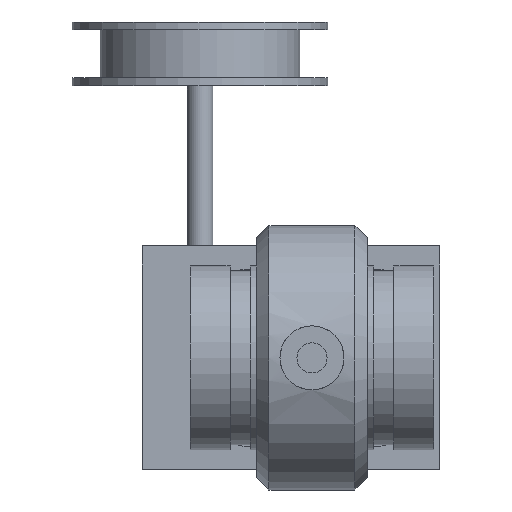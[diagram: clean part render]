
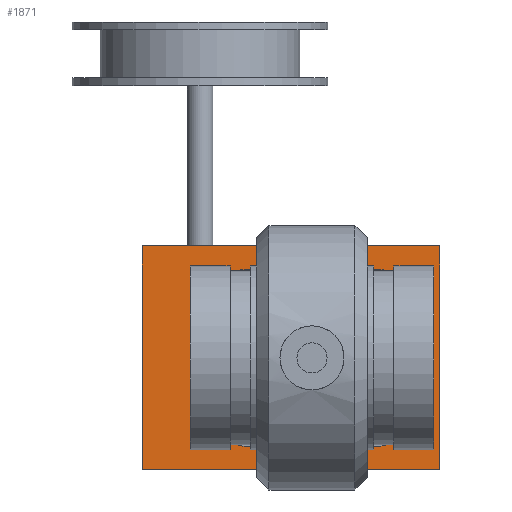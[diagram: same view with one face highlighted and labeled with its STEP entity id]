
A CAD part, front view. The second image highlights one B-rep face of the part: STEP entity #1871.
In plain terms, the highlighted planar face has unit normal (0, -1, 0).
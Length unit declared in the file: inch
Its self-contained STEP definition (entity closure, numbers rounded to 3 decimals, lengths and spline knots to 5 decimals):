
#38=FACE_BOUND('',#269,.T.);
#77=PLANE('',#2059);
#152=FACE_OUTER_BOUND('',#268,.T.);
#268=EDGE_LOOP('',(#1406,#1407,#1408,#1409));
#269=EDGE_LOOP('',(#1410,#1411,#1412,#1413,#1414,#1415,#1416,#1417));
#404=LINE('',#3024,#529);
#405=LINE('',#3026,#530);
#406=LINE('',#3028,#531);
#407=LINE('',#3029,#532);
#408=LINE('',#3034,#533);
#409=LINE('',#3038,#534);
#410=LINE('',#3042,#535);
#411=LINE('',#3045,#536);
#529=VECTOR('',#2467,0.3937);
#530=VECTOR('',#2468,0.3937);
#531=VECTOR('',#2469,0.3937);
#532=VECTOR('',#2470,0.3937);
#533=VECTOR('',#2473,0.3937);
#534=VECTOR('',#2476,0.3937);
#535=VECTOR('',#2479,0.3937);
#536=VECTOR('',#2482,0.3937);
#655=CIRCLE('',#2060,0.32);
#656=CIRCLE('',#2061,0.32);
#657=CIRCLE('',#2062,0.32);
#658=CIRCLE('',#2063,0.32);
#805=VERTEX_POINT('',#3022);
#806=VERTEX_POINT('',#3023);
#807=VERTEX_POINT('',#3025);
#808=VERTEX_POINT('',#3027);
#809=VERTEX_POINT('',#3030);
#810=VERTEX_POINT('',#3031);
#811=VERTEX_POINT('',#3033);
#812=VERTEX_POINT('',#3035);
#813=VERTEX_POINT('',#3037);
#814=VERTEX_POINT('',#3039);
#815=VERTEX_POINT('',#3041);
#816=VERTEX_POINT('',#3043);
#1024=EDGE_CURVE('',#805,#806,#404,.T.);
#1025=EDGE_CURVE('',#807,#805,#405,.T.);
#1026=EDGE_CURVE('',#808,#807,#406,.T.);
#1027=EDGE_CURVE('',#806,#808,#407,.T.);
#1028=EDGE_CURVE('',#809,#810,#655,.T.);
#1029=EDGE_CURVE('',#809,#811,#408,.T.);
#1030=EDGE_CURVE('',#812,#811,#656,.T.);
#1031=EDGE_CURVE('',#812,#813,#409,.T.);
#1032=EDGE_CURVE('',#814,#813,#657,.T.);
#1033=EDGE_CURVE('',#814,#815,#410,.T.);
#1034=EDGE_CURVE('',#816,#815,#658,.T.);
#1035=EDGE_CURVE('',#816,#810,#411,.T.);
#1406=ORIENTED_EDGE('',*,*,#1024,.F.);
#1407=ORIENTED_EDGE('',*,*,#1025,.F.);
#1408=ORIENTED_EDGE('',*,*,#1026,.F.);
#1409=ORIENTED_EDGE('',*,*,#1027,.F.);
#1410=ORIENTED_EDGE('',*,*,#1028,.F.);
#1411=ORIENTED_EDGE('',*,*,#1029,.T.);
#1412=ORIENTED_EDGE('',*,*,#1030,.F.);
#1413=ORIENTED_EDGE('',*,*,#1031,.T.);
#1414=ORIENTED_EDGE('',*,*,#1032,.F.);
#1415=ORIENTED_EDGE('',*,*,#1033,.T.);
#1416=ORIENTED_EDGE('',*,*,#1034,.F.);
#1417=ORIENTED_EDGE('',*,*,#1035,.T.);
#1871=ADVANCED_FACE('',(#152,#38),#77,.F.);
#2059=AXIS2_PLACEMENT_3D('',#3021,#2465,#2466);
#2060=AXIS2_PLACEMENT_3D('',#3032,#2471,#2472);
#2061=AXIS2_PLACEMENT_3D('',#3036,#2474,#2475);
#2062=AXIS2_PLACEMENT_3D('',#3040,#2477,#2478);
#2063=AXIS2_PLACEMENT_3D('',#3044,#2480,#2481);
#2465=DIRECTION('center_axis',(0.,1.,0.));
#2466=DIRECTION('ref_axis',(0.,0.,1.));
#2467=DIRECTION('',(0.,0.,-1.));
#2468=DIRECTION('',(1.,0.,0.));
#2469=DIRECTION('',(0.,0.,1.));
#2470=DIRECTION('',(-1.,0.,0.));
#2471=DIRECTION('center_axis',(0.,-1.,0.));
#2472=DIRECTION('ref_axis',(-0.707,0.,0.707));
#2473=DIRECTION('',(1.,0.,0.));
#2474=DIRECTION('center_axis',(0.,-1.,0.));
#2475=DIRECTION('ref_axis',(0.707,0.,0.707));
#2476=DIRECTION('',(0.,0.,-1.));
#2477=DIRECTION('center_axis',(0.,-1.,0.));
#2478=DIRECTION('ref_axis',(0.707,0.,-0.707));
#2479=DIRECTION('',(-1.,0.,0.));
#2480=DIRECTION('center_axis',(0.,-1.,0.));
#2481=DIRECTION('ref_axis',(-0.707,0.,-0.707));
#2482=DIRECTION('',(0.,0.,1.));
#3021=CARTESIAN_POINT('Origin',(-0.3275,4.25,0.));
#3022=CARTESIAN_POINT('',(2.,4.25,1.75));
#3023=CARTESIAN_POINT('',(2.,4.25,-1.75));
#3024=CARTESIAN_POINT('',(2.,4.25,1.75));
#3025=CARTESIAN_POINT('',(-2.655,4.25,1.75));
#3026=CARTESIAN_POINT('',(-2.655,4.25,1.75));
#3027=CARTESIAN_POINT('',(-2.655,4.25,-1.75));
#3028=CARTESIAN_POINT('',(-2.655,4.25,-1.75));
#3029=CARTESIAN_POINT('',(2.,4.25,-1.75));
#3030=CARTESIAN_POINT('',(-1.06,4.25,1.38));
#3031=CARTESIAN_POINT('',(-1.38,4.25,1.06));
#3032=CARTESIAN_POINT('Origin',(-1.06,4.25,1.06));
#3033=CARTESIAN_POINT('',(1.06,4.25,1.38));
#3034=CARTESIAN_POINT('',(-1.38,4.25,1.38));
#3035=CARTESIAN_POINT('',(1.38,4.25,1.06));
#3036=CARTESIAN_POINT('Origin',(1.06,4.25,1.06));
#3037=CARTESIAN_POINT('',(1.38,4.25,-1.06));
#3038=CARTESIAN_POINT('',(1.38,4.25,1.38));
#3039=CARTESIAN_POINT('',(1.06,4.25,-1.38));
#3040=CARTESIAN_POINT('Origin',(1.06,4.25,-1.06));
#3041=CARTESIAN_POINT('',(-1.06,4.25,-1.38));
#3042=CARTESIAN_POINT('',(1.38,4.25,-1.38));
#3043=CARTESIAN_POINT('',(-1.38,4.25,-1.06));
#3044=CARTESIAN_POINT('Origin',(-1.06,4.25,-1.06));
#3045=CARTESIAN_POINT('',(-1.38,4.25,-1.38));
